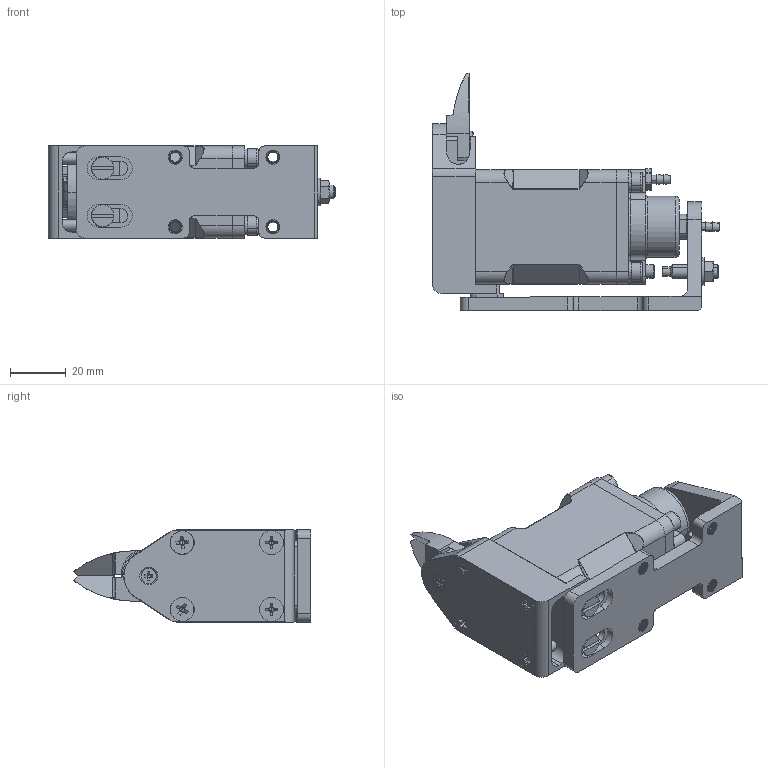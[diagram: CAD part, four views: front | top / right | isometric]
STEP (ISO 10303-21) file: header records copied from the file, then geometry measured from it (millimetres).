
FILE_DESCRIPTION (( 'STEP AP214' ), '1' );
FILE_NAME ('CRG-NY15P.STEP', '2019-11-13T06:28:31', ( '微软用户' ), ( '微软中国' ), 'SwSTEP 2.0', 'SolidWorks 2016', '' );
FILE_SCHEMA (( 'AUTOMOTIVE_DESIGN' ));
Length unit declared in the file: millimetre
Products named in the file (1): CRG-NY15P
Bounding box: 103 x 85 x 33 mm (x, y, z)
Surface area: 68636 mm2 (no closed solid volume)
Topology: 0 solids, 45 shells, 1894 faces, 4363 edges, 2571 vertices
Faces by surface type: cylinder 673, cone 563, plane 528, torus 92, bspline 38
Entity records: 83079 total; most frequent: CARTESIAN_POINT 18771, DIRECTION 9587, ORIENTED_EDGE 8626, EDGE_CURVE 4325, AXIS2_PLACEMENT_3D 3751, VERTEX_POINT 2571, LINE 2085, VECTOR 2085
